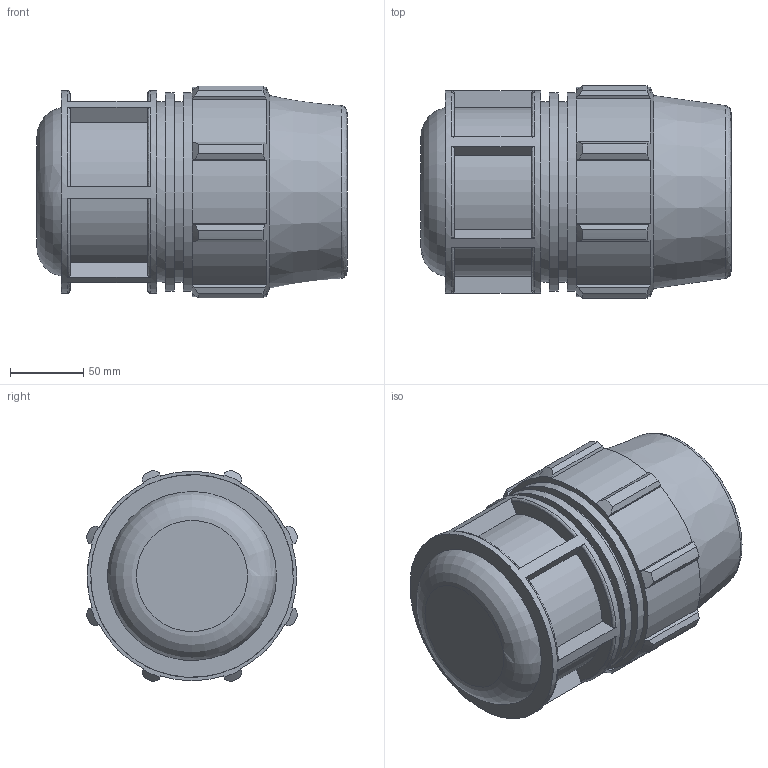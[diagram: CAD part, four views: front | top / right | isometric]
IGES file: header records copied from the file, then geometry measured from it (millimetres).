
Global section: file name: 0712060900A.ipt; native system: Autodesk Inventor 2015; preprocessor: unknown; author: Кирилл,,11,0; organization: 20170224.180708; date: 20180325.201215; units: millimetre
Bounding box: 212 x 144.9 x 144.9 mm (x, y, z)
Volume: 1658981.7 mm3; surface area: 187843.5 mm2
Topology: 1 solids, 1 shells, 121 faces, 322 edges, 216 vertices
Faces by surface type: plane 66, cylinder 27, revolution 18, cone 10
Full cylindrical faces by diameter (mm): 123.2 x2, 135.828 x2, 138.6 x1
